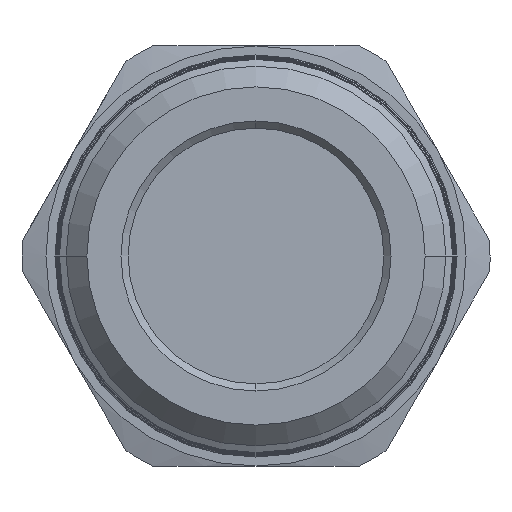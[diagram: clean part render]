
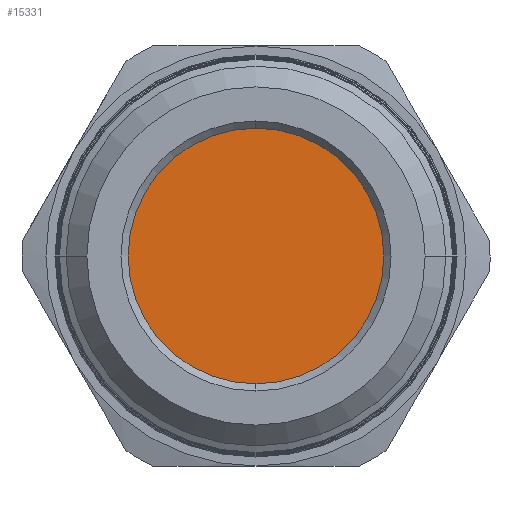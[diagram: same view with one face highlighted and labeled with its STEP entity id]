
A CAD part, left-side view. The second image highlights one B-rep face of the part: STEP entity #15331.
In plain terms, the highlighted planar face has unit normal (-1, 0, 0).
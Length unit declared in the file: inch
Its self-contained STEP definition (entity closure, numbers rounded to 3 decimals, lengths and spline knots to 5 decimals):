
#1077 = CARTESIAN_POINT ( 'NONE',  ( 1., 0., 0. ) ) ;
#1078 = DIRECTION ( 'NONE',  ( -1., 0., 0. ) ) ;
#1079 = DIRECTION ( 'NONE',  ( 0., 0., 1. ) ) ;
#1538 = CIRCLE ( 'NONE', #1543, 0.26625 ) ;
#1543 = AXIS2_PLACEMENT_3D ( 'NONE', #1077, #1078, #1079 ) ;
#2353 = CARTESIAN_POINT ( 'NONE',  ( 1., 0., 0. ) ) ;
#2355 = FACE_OUTER_BOUND ( 'NONE', #19716, .T. ) ;
#2356 = PLANE ( 'NONE',  #2930 ) ;
#2359 = DIRECTION ( 'NONE',  ( -1., 0., 0. ) ) ;
#2360 = DIRECTION ( 'NONE',  ( 0., 0., 1. ) ) ;
#2930 = AXIS2_PLACEMENT_3D ( 'NONE', #2353, #2359, #2360 ) ;
#3363 = ORIENTED_EDGE ( 'NONE', *, *, #15120, .T. ) ;
#3371 = ORIENTED_EDGE ( 'NONE', *, *, #16876, .T. ) ;
#6389 = CARTESIAN_POINT ( 'NONE',  ( 1., 0., 0.26625 ) ) ;
#6505 = CARTESIAN_POINT ( 'NONE',  ( 1., 0., -0.26625 ) ) ;
#8385 = CARTESIAN_POINT ( 'NONE',  ( 1., 0., 0. ) ) ;
#8386 = DIRECTION ( 'NONE',  ( -1., 0., 0. ) ) ;
#8387 = DIRECTION ( 'NONE',  ( 0., 0., 1. ) ) ;
#8778 = CIRCLE ( 'NONE', #8855, 0.26625 ) ;
#8855 = AXIS2_PLACEMENT_3D ( 'NONE', #8385, #8386, #8387 ) ;
#15120 = EDGE_CURVE ( 'NONE', #16244, #16360, #1538, .T. ) ;
#15331 = ADVANCED_FACE ( 'NONE', ( #2355 ), #2356, .T. ) ;
#16244 = VERTEX_POINT ( 'NONE', #6389 ) ;
#16360 = VERTEX_POINT ( 'NONE', #6505 ) ;
#16876 = EDGE_CURVE ( 'NONE', #16360, #16244, #8778, .T. ) ;
#19716 = EDGE_LOOP ( 'NONE', ( #3363, #3371 ) ) ;
